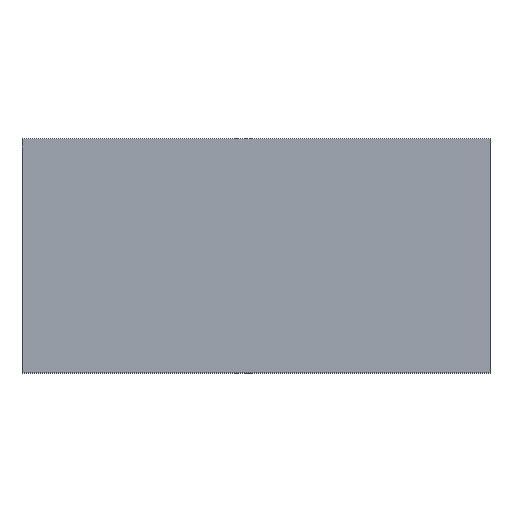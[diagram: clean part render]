
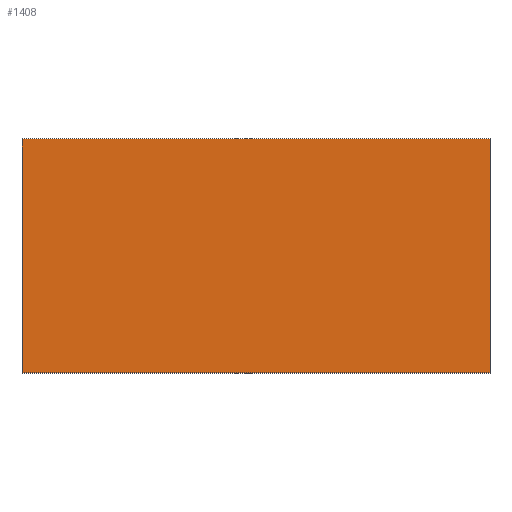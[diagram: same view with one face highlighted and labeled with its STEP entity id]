
A CAD part, top view. The second image highlights one B-rep face of the part: STEP entity #1408.
In plain terms, the highlighted planar face has unit normal (0, 0, 1).
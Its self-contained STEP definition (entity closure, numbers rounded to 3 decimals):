
#192=ORIENTED_EDGE('',*,*,#548,.T.);
#193=ORIENTED_EDGE('',*,*,#552,.T.);
#194=ORIENTED_EDGE('',*,*,#555,.T.);
#195=ORIENTED_EDGE('',*,*,#557,.T.);
#548=EDGE_CURVE('',#725,#724,#876,.T.);
#552=EDGE_CURVE('',#724,#727,#880,.T.);
#555=EDGE_CURVE('',#727,#729,#883,.T.);
#557=EDGE_CURVE('',#729,#725,#885,.T.);
#724=VERTEX_POINT('',#2153);
#725=VERTEX_POINT('',#2155);
#727=VERTEX_POINT('',#2161);
#729=VERTEX_POINT('',#2167);
#876=LINE('',#2154,#1076);
#880=LINE('',#2162,#1080);
#883=LINE('',#2168,#1083);
#885=LINE('',#2171,#1085);
#1076=VECTOR('',#1728,1000.);
#1080=VECTOR('',#1734,1000.);
#1083=VECTOR('',#1739,1000.);
#1085=VECTOR('',#1743,1000.);
#1181=EDGE_LOOP('',(#192,#193,#194,#195));
#1257=FACE_BOUND('',#1181,.T.);
#1333=PLANE('',#1496);
#1408=ADVANCED_FACE('',(#1257),#1333,.T.);
#1496=AXIS2_PLACEMENT_3D('',#2172,#1744,#1745);
#1728=DIRECTION('',(-1.,0.,0.));
#1734=DIRECTION('',(0.,-1.,0.));
#1739=DIRECTION('',(1.,0.,0.));
#1743=DIRECTION('',(0.,1.,0.));
#1744=DIRECTION('',(0.,0.,1.));
#1745=DIRECTION('',(1.,0.,0.));
#2153=CARTESIAN_POINT('',(-20.,10.,3.));
#2154=CARTESIAN_POINT('',(20.,10.,3.));
#2155=CARTESIAN_POINT('',(20.,10.,3.));
#2161=CARTESIAN_POINT('',(-20.,-10.,3.));
#2162=CARTESIAN_POINT('',(-20.,10.,3.));
#2167=CARTESIAN_POINT('',(20.,-10.,3.));
#2168=CARTESIAN_POINT('',(-20.,-10.,3.));
#2171=CARTESIAN_POINT('',(20.,-10.,3.));
#2172=CARTESIAN_POINT('',(0.,0.,3.));
